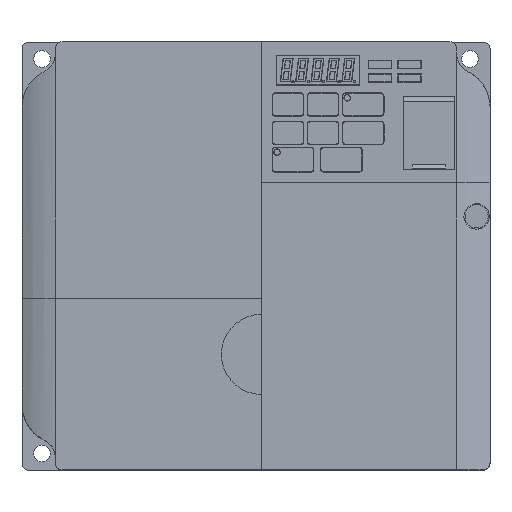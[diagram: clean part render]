
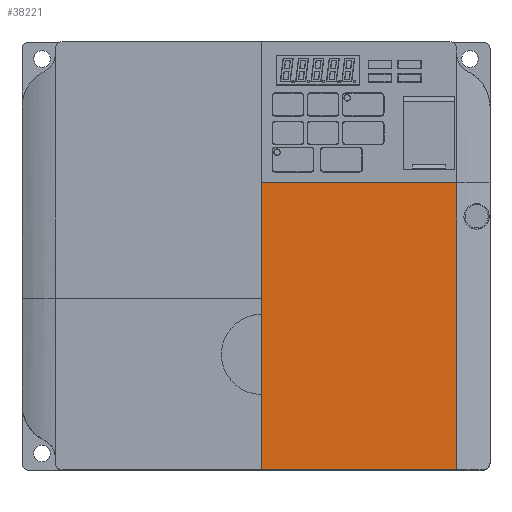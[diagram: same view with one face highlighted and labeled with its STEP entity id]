
A CAD part, top view. The second image highlights one B-rep face of the part: STEP entity #38221.
In plain terms, the highlighted planar face has unit normal (0, 0, 1).
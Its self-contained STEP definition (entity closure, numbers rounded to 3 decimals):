
#37721=DIRECTION('',(0.,-1.,0.));
#37722=VECTOR('',#37721,85.8);
#37723=CARTESIAN_POINT('',(-6.,10.,7.919));
#37724=LINE('',#37723,#37722);
#37805=DIRECTION('',(-1.,0.,0.));
#37806=VECTOR('',#37805,58.35);
#37807=CARTESIAN_POINT('',(-6.,-75.8,7.919));
#37808=LINE('',#37807,#37806);
#37814=DIRECTION('',(0.,1.,0.));
#37815=VECTOR('',#37814,85.8);
#37816=CARTESIAN_POINT('',(-64.35,-75.8,7.919));
#37817=LINE('',#37816,#37815);
#37831=DIRECTION('',(1.,0.,0.));
#37832=VECTOR('',#37831,58.35);
#37833=CARTESIAN_POINT('',(-64.35,10.,7.919));
#37834=LINE('',#37833,#37832);
#38011=CARTESIAN_POINT('',(-64.35,-75.8,7.919));
#38012=VERTEX_POINT('',#38011);
#38013=CARTESIAN_POINT('',(-64.35,10.,7.919));
#38014=VERTEX_POINT('',#38013);
#38015=CARTESIAN_POINT('',(-6.,10.,7.919));
#38016=VERTEX_POINT('',#38015);
#38017=CARTESIAN_POINT('',(-6.,-75.8,7.919));
#38018=VERTEX_POINT('',#38017);
#38210=CARTESIAN_POINT('',(-30.272,-32.779,7.919));
#38211=DIRECTION('',(0.,0.,1.));
#38212=DIRECTION('',(1.,0.,0.));
#38213=AXIS2_PLACEMENT_3D('',#38210,#38211,#38212);
#38214=PLANE('',#38213);
#38215=ORIENTED_EDGE('',*,*,#38190,.T.);
#38216=ORIENTED_EDGE('',*,*,#38205,.T.);
#38217=ORIENTED_EDGE('',*,*,#38091,.T.);
#38218=ORIENTED_EDGE('',*,*,#38175,.T.);
#38219=EDGE_LOOP('',(#38215,#38216,#38217,#38218));
#38220=FACE_OUTER_BOUND('',#38219,.F.);
#38221=ADVANCED_FACE('',(#38220),#38214,.T.);
#38091=EDGE_CURVE('',#38016,#38018,#37724,.T.);
#38175=EDGE_CURVE('',#38018,#38012,#37808,.T.);
#38190=EDGE_CURVE('',#38012,#38014,#37817,.T.);
#38205=EDGE_CURVE('',#38014,#38016,#37834,.T.);
